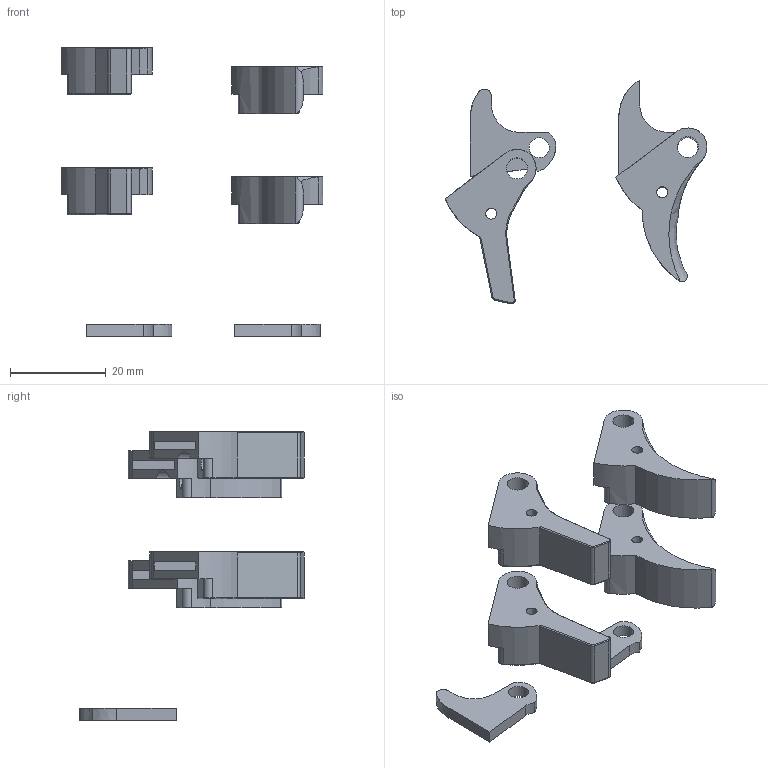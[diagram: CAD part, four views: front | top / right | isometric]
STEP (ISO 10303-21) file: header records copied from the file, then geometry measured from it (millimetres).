
FILE_DESCRIPTION(/* description */ ('','CAx-IF Rec.Pracs.---Representation and Presentation of Product Manufacturing Information (PMI)---4.0---2014-10-13'),/* implementation_level */ '2;1');
FILE_NAME(/* name */ 'GSPOT glock frt V2.step',/* time_stamp */ '2025-03-31T20:35:11-05:00',/* author */ (''),/* organization */ (''),/* preprocessor_version */ 'ST-DEVELOPER v20',/* originating_system */ 'Autodesk Translation Framework v13.20.0.188',/* authorisation */ '');
FILE_SCHEMA (('AP242_MANAGED_MODEL_BASED_3D_ENGINEERING_MIM_LF { 1 0 10303 442 1 1 4 }'));
Length unit declared in the file: millimetre
Products named in the file (5): GSPOT glock frt; Staged Hardware; Glock 17 - Staged Hardware; TLR-1 HL; DMB - Glock 17 - 17rd Magazine
Assembly tree (4 placements, depth 3):
  GSPOT glock frt
    Staged Hardware
      Glock 17 - Staged Hardware
      TLR-1 HL
      DMB - Glock 17 - 17rd Magazine
Bounding box: 54.75 x 46.84 x 60.4 mm (x, y, z)
Volume: 8036.9 mm3; surface area: 7446.1 mm2
Topology: 6 solids, 6 shells, 164 faces, 414 edges, 266 vertices
Faces by surface type: cylinder 76, plane 59, bspline 21, torus 8
Full cylindrical faces by diameter (mm): 2.3 x8, 4 x2, 4.2 x2, 4.4 x4
Entity records: 8118 total; most frequent: CARTESIAN_POINT 3954, DIRECTION 846, ORIENTED_EDGE 828, EDGE_CURVE 414, AXIS2_PLACEMENT_3D 325, VERTEX_POINT 266, LINE 196, VECTOR 196
